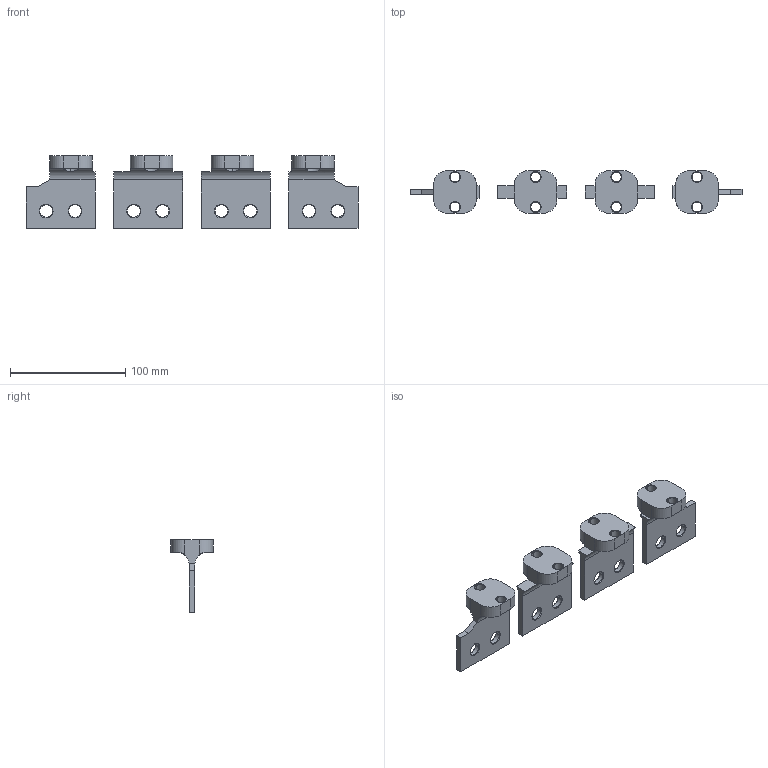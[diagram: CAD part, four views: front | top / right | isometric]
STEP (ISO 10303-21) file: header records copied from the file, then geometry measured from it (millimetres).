
FILE_DESCRIPTION (( 'STEP AP203' ), '1' );
FILE_NAME ('Âûâîäû ãîðèç. íèæíèå äëÿ ñòàöèîíàðíîãî íà 630À 4P.STEP', '2024-06-25T08:35:09', ( '' ), ( '' ), 'SwSTEP 2.0', 'SolidWorks 2018', '' );
FILE_SCHEMA (( 'CONFIG_CONTROL_DESIGN' ));
Length unit declared in the file: millimetre
Products named in the file (1): Âûâîäû ãîðèç. íèæíèå äëÿ  ñòàöèîíàðíîãî íà 630À 4P
Bounding box: 288 x 37 x 63 mm (x, y, z)
Volume: 111102.8 mm3; surface area: 42660.4 mm2
Topology: 4 solids, 4 shells, 190 faces, 478 edges, 296 vertices
Faces by surface type: cylinder 68, cone 64, plane 58
Entity records: 6297 total; most frequent: CARTESIAN_POINT 1505, DIRECTION 1032, ORIENTED_EDGE 956, EDGE_CURVE 478, AXIS2_PLACEMENT_3D 391, VERTEX_POINT 296, VECTOR 250, LINE 250
